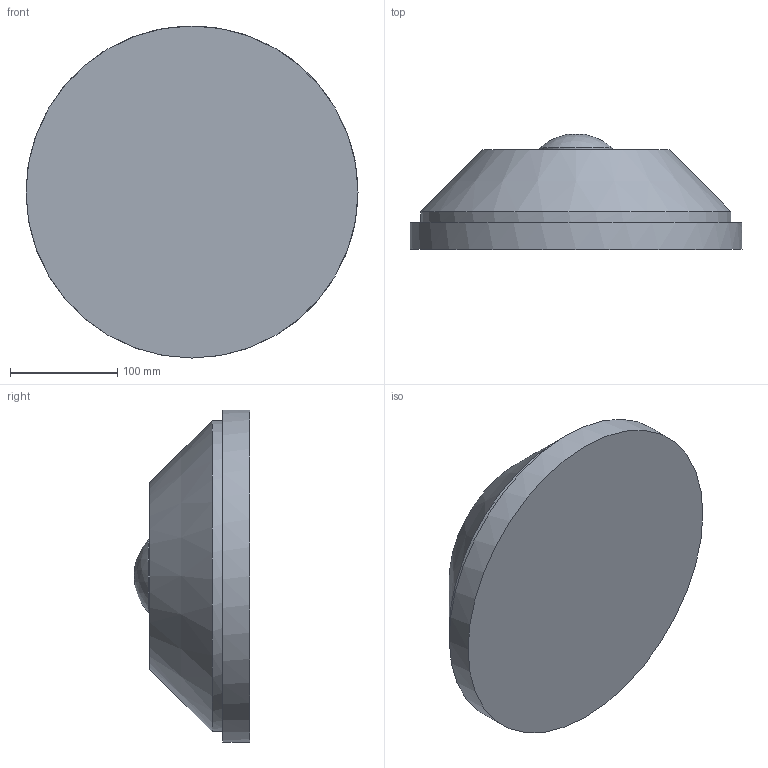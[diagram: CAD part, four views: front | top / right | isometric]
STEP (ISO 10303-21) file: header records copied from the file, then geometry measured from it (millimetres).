
FILE_DESCRIPTION (( 'STEP AP203' ), '1' );
FILE_NAME ('0030380 EZ-0053-310.STEP', '2025-04-22T09:32:16', ( '' ), ( '' ), 'SwSTEP 2.0', 'SolidWorks 2021', '' );
FILE_SCHEMA (( 'CONFIG_CONTROL_DESIGN' ));
Length unit declared in the file: millimetre
Products named in the file (1): 0030380 EZ-0053-310
Bounding box: 310 x 107.43 x 310 mm (x, y, z)
Volume: 5072969.6 mm3; surface area: 214032.4 mm2
Topology: 2 solids, 2 shells, 52 faces, 103 edges, 65 vertices
Faces by surface type: cylinder 24, plane 15, cone 12, sphere 1
Full cylindrical faces by diameter (mm): 5 x6, 6 x6, 6.8 x1, 8 x1, 8.8 x1, 9 x1, 9.728 x1, 12 x2, 15 x1, 68 x1, 310 x1
Entity records: 1219 total; most frequent: CARTESIAN_POINT 237, DIRECTION 208, ORIENTED_EDGE 116, AXIS2_PLACEMENT_3D 103, EDGE_LOOP 98, FACE_OUTER_BOUND 75, EDGE_CURVE 58, VERTEX_POINT 54
